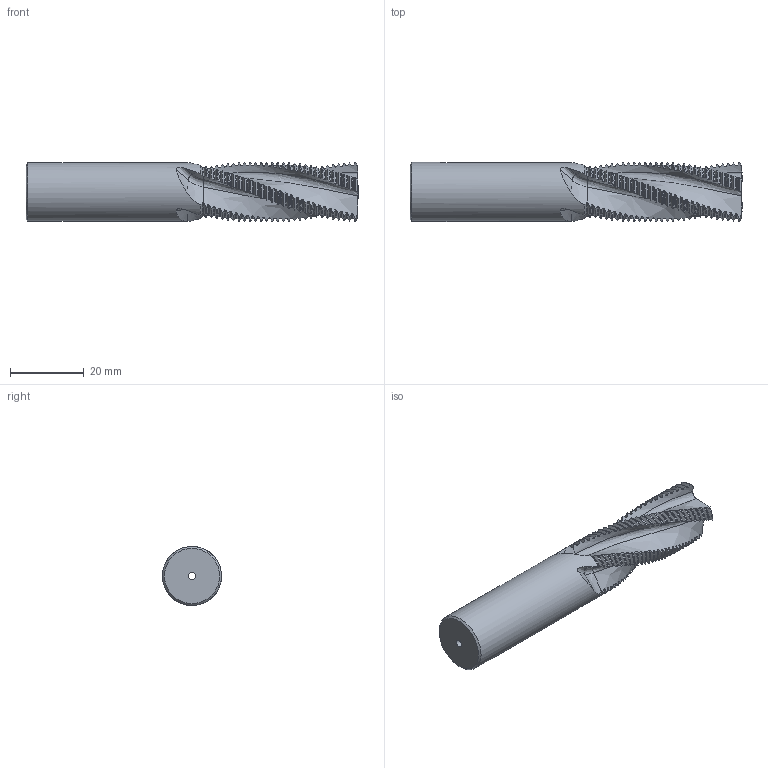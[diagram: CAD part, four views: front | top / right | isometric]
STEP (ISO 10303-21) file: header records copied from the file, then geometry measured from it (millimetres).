
FILE_DESCRIPTION(/* description */ (''),/* implementation_level */ '2;1');
FILE_NAME(/* name */ '00031455-STEP',/* time_stamp */ '2024-02-13T10:46:46+01:00',/* author */ (''),/* organization */ (''),/* preprocessor_version */ 'ST-DEVELOPER v16.5',/* originating_system */ 'HiCAD 2017 2201.0 Build 268',/* authorisation */ '');
FILE_SCHEMA (('AUTOMOTIVE_DESIGN { 1 0 10303 214 1 1 1 1 }'));
Products named in the file (2): Root; ROTATIONSTEIL_1
Assembly tree (1 placements, depth 2):
  Root
    ROTATIONSTEIL_1
Bounding box: 90 x 16 x 15.99 mm (x, y, z)
Volume: 13225.6 mm3; surface area: 6040.3 mm2
Topology: 1 solids, 1 shells, 725 faces, 2156 edges, 1433 vertices
Faces by surface type: cylinder 230, cone 229, torus 228, bspline 36, plane 2
Full cylindrical faces by diameter (mm): 2 x1, 16 x1
Entity records: 74048 total; most frequent: CARTESIAN_POINT 36917, PRESENTATION_STYLE_ASSIGNMENT 4301, COLOUR_RGB 4301, DRAUGHTING_PRE_DEFINED_CURVE_FONT 4300, CURVE_STYLE 4300, OVER_RIDING_STYLED_ITEM 4300, ORIENTED_EDGE 4300, DIRECTION 2766
